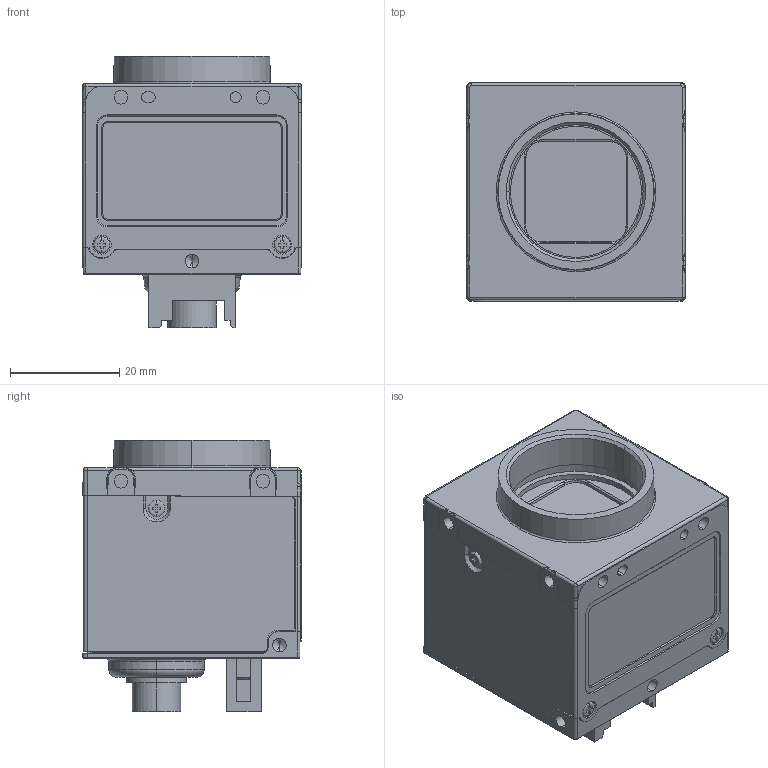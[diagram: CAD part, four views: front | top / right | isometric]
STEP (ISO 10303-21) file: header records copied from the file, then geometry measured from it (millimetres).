
FILE_DESCRIPTION (( 'STEP AP214' ), '1' );
FILE_NAME ('DDU1207MG-1503190130.STEP', '2019-02-02T07:00:13', ( 'M-CAD25' ), ( 'Toshiba' ), 'SwSTEP 2.0', 'SolidWorks 2017', '' );
FILE_SCHEMA (( 'AUTOMOTIVE_DESIGN' ));
Length unit declared in the file: millimetre
Products named in the file (1): DDU1207MG-1503190130
Bounding box: 40 x 40 x 49.7 mm (x, y, z)
Volume: 54702.5 mm3; surface area: 20782 mm2
Topology: 6 solids, 10 shells, 2146 faces, 5924 edges, 3863 vertices
Faces by surface type: plane 1377, cylinder 554, bspline 114, cone 53, torus 46, sphere 2
Entity records: 96715 total; most frequent: CARTESIAN_POINT 20560, ORIENTED_EDGE 11816, DIRECTION 9511, EDGE_CURVE 5908, LINE 4137, VECTOR 4137, VERTEX_POINT 3863, AXIS2_PLACEMENT_3D 2687
